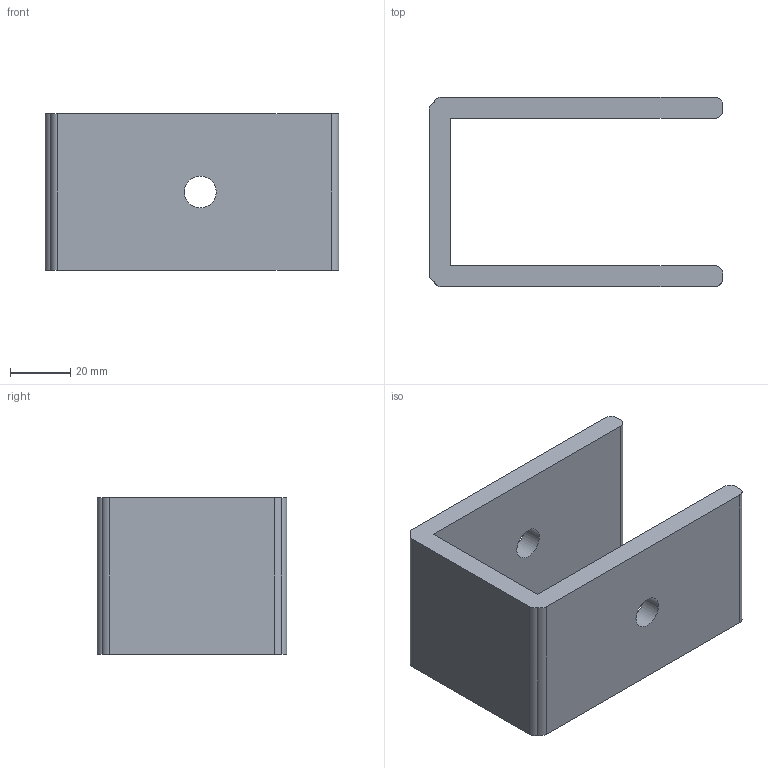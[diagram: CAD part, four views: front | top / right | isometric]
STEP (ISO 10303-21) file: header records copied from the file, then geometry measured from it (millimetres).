
FILE_DESCRIPTION(('Open CASCADE Model'),'2;1');
FILE_NAME('Open CASCADE Shape Model','2026-09-16T16:54:27',('Author'),( 'Open CASCADE'),'Open CASCADE STEP processor 7.8','Open CASCADE 7.8' ,'Unknown');
FILE_SCHEMA(('AUTOMOTIVE_DESIGN { 1 0 10303 214 1 1 1 1 }'));
Length unit declared in the file: millimetre
Products named in the file (1): Open CASCADE STEP translator 7.8 24
Bounding box: 97.5 x 63 x 52 mm (x, y, z)
Volume: 86799.6 mm3; surface area: 29184.2 mm2
Topology: 1 solids, 1 shells, 20 faces, 54 edges, 36 vertices
Faces by surface type: plane 10, cylinder 10
Full cylindrical faces by diameter (mm): 10.6 x2
Entity records: 1380 total; most frequent: CARTESIAN_POINT 287, DIRECTION 206, LINE 114, VECTOR 114, ORIENTED_EDGE 108, PCURVE 108, DEFINITIONAL_REPRESENTATION 108, EDGE_CURVE 54
